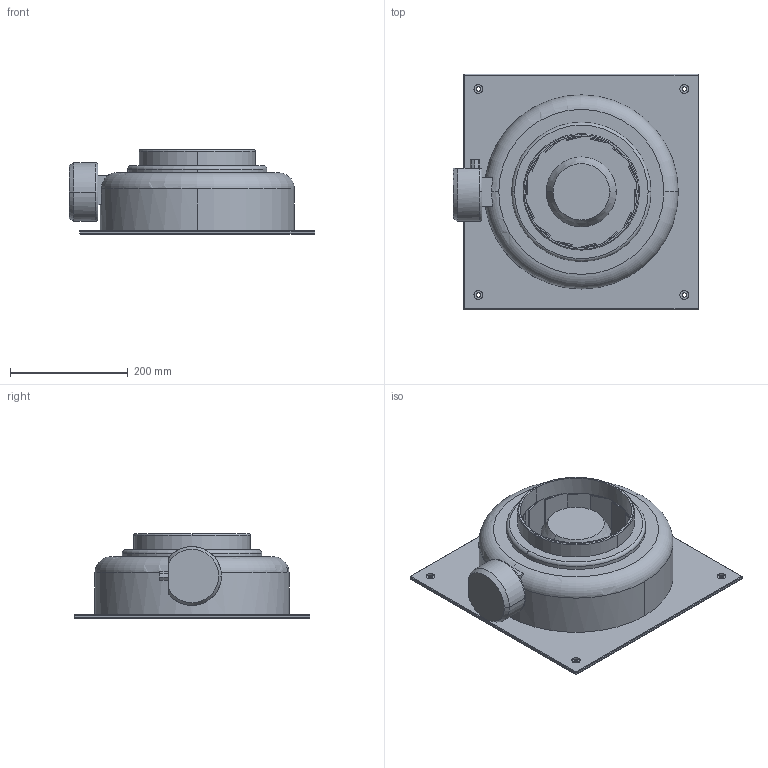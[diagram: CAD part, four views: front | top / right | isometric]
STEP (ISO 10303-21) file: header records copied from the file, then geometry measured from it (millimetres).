
FILE_DESCRIPTION(('STEP AP214'),'1');
FILE_NAME('fan_5145627600.stp','2017-03-31T18:13:14',('TraceParts'),('TraceParts S.A.'),'Spatial InterOp 3D',' ',' ');
FILE_SCHEMA(('automotive_design'));
Length unit declared in the file: millimetre
Products named in the file (1): fan_5145627600
Bounding box: 418 x 400 x 143 mm (x, y, z)
Volume: 3365770.4 mm3; surface area: 872249.9 mm2
Topology: 1 solids, 1 shells, 171 faces, 498 edges, 320 vertices
Faces by surface type: plane 102, cylinder 44, torus 13, sphere 8, cone 4
Entity records: 7205 total; most frequent: CARTESIAN_POINT 1134, DIRECTION 995, ORIENTED_EDGE 980, EDGE_CURVE 490, AXIS2_PLACEMENT_3D 339, VERTEX_POINT 320, LINE 317, VECTOR 317
